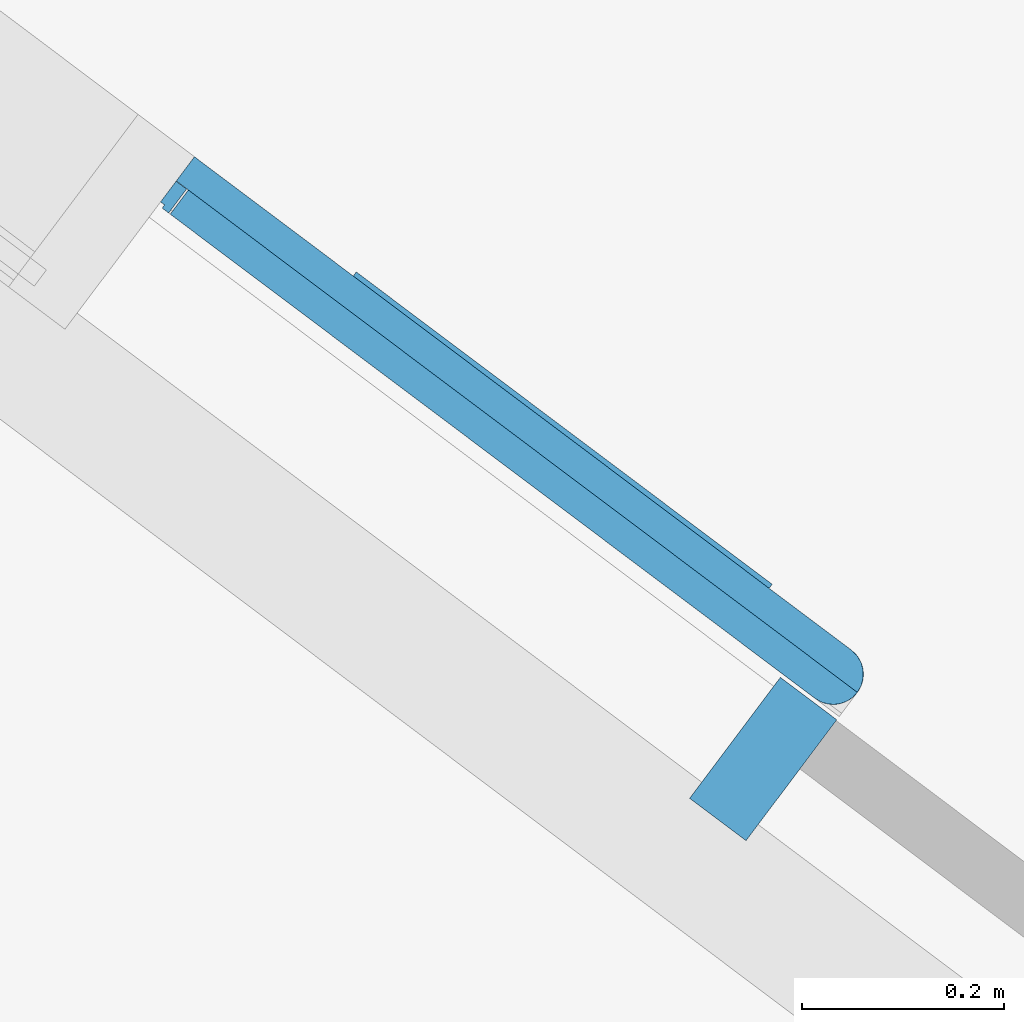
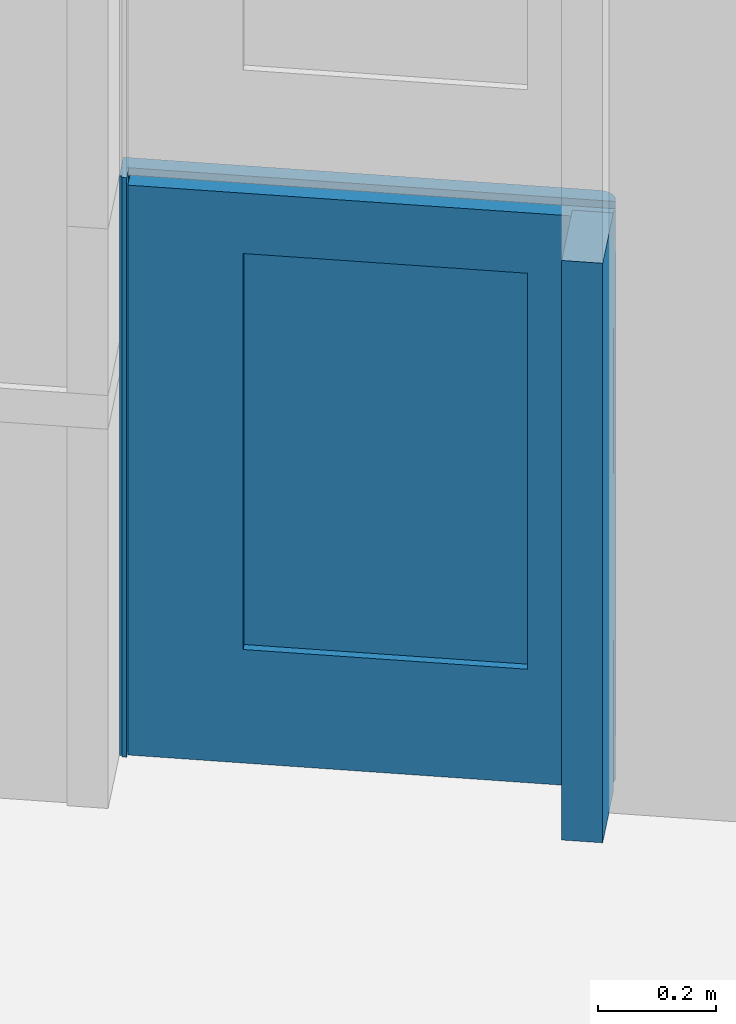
# One storey, part 111 of 243: 1 plate, 1 element without a shape of its own.
"""IFC2X3 building model written with IfcOpenShell, lengths in metres."""

from ifc_helpers import new_model, entity, si_unit, converted_unit, derived_unit, direction, frame, origin, place, context, subcontext, project, spatial, faceted_brep, source, transform, mapped, material, material_list, type_object, type_shapes, element, aggregate, save


model = new_model("IFC2X3")

# Units and contexts
model_context = context("Model", 3, precision=1e-05, world=origin(), true_north=direction((6.123031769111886e-17, 1.0)))
body_context = subcontext(model_context, "Body", "Model", "MODEL_VIEW")
ifc_project = project(units=[si_unit("LENGTHUNIT", "METRE"), si_unit("AREAUNIT", "SQUARE_METRE"), si_unit("VOLUMEUNIT", "CUBIC_METRE"), converted_unit("PLANEANGLEUNIT", "DEGREE", entity("IfcRatioMeasure", 0.017453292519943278), si_unit("PLANEANGLEUNIT", "RADIAN"), dimensions=[0, 0, 0, 0, 0, 0, 0]), si_unit("MASSUNIT", "GRAM", prefix="KILO"), derived_unit("MASSDENSITYUNIT", [(si_unit("MASSUNIT", "GRAM", prefix="KILO"), 1), (si_unit("LENGTHUNIT", "METRE"), -3)]), derived_unit("IONCONCENTRATIONUNIT", [(si_unit("MASSUNIT", "GRAM", prefix="KILO"), 1), (si_unit("LENGTHUNIT", "METRE"), -3)]), derived_unit("MOMENTOFINERTIAUNIT", [(si_unit("LENGTHUNIT", "METRE"), 4)]), si_unit("TIMEUNIT", "SECOND"), si_unit("FREQUENCYUNIT", "HERTZ"), si_unit("THERMODYNAMICTEMPERATUREUNIT", "DEGREE_CELSIUS"), derived_unit("THERMALTRANSMITTANCEUNIT", [(si_unit("MASSUNIT", "GRAM", prefix="KILO"), 1), (si_unit("THERMODYNAMICTEMPERATUREUNIT", "KELVIN"), -1), (si_unit("TIMEUNIT", "SECOND"), -3)]), derived_unit("THERMALCONDUCTANCEUNIT", [(si_unit("MASSUNIT", "GRAM", prefix="KILO"), 1), (si_unit("THERMODYNAMICTEMPERATUREUNIT", "KELVIN"), -1), (si_unit("TIMEUNIT", "SECOND"), -3), (si_unit("LENGTHUNIT", "METRE"), 1)]), derived_unit("VOLUMETRICFLOWRATEUNIT", [(si_unit("LENGTHUNIT", "METRE"), 3), (si_unit("TIMEUNIT", "SECOND"), -1)]), derived_unit("MASSFLOWRATEUNIT", [(si_unit("MASSUNIT", "GRAM", prefix="KILO"), 1), (si_unit("TIMEUNIT", "SECOND"), -1)]), derived_unit("ROTATIONALFREQUENCYUNIT", [(si_unit("TIMEUNIT", "SECOND"), -1)]), si_unit("ELECTRICCURRENTUNIT", "AMPERE"), si_unit("ELECTRICVOLTAGEUNIT", "VOLT"), si_unit("POWERUNIT", "WATT"), si_unit("FORCEUNIT", "NEWTON", prefix="KILO"), si_unit("ILLUMINANCEUNIT", "LUX"), si_unit("LUMINOUSFLUXUNIT", "LUMEN"), si_unit("LUMINOUSINTENSITYUNIT", "CANDELA"), derived_unit("USERDEFINED", [(si_unit("MASSUNIT", "GRAM", prefix="KILO"), -1), (si_unit("LENGTHUNIT", "METRE"), -2), (si_unit("TIMEUNIT", "SECOND"), 3), (si_unit("LUMINOUSFLUXUNIT", "LUMEN"), 1)]), derived_unit("USERDEFINED", [(si_unit("MASSUNIT", "GRAM", prefix="KILO"), 1), (si_unit("TIMEUNIT", "SECOND"), -3), (si_unit("LENGTHUNIT", "METRE"), 3), (si_unit("ELECTRICCURRENTUNIT", "AMPERE"), -2)]), derived_unit("SOUNDPOWERUNIT", [(si_unit("MASSUNIT", "GRAM", prefix="KILO"), 1), (si_unit("TIMEUNIT", "SECOND"), -3), (si_unit("LENGTHUNIT", "METRE"), 2)]), derived_unit("SOUNDPRESSUREUNIT", [(si_unit("MASSUNIT", "GRAM", prefix="KILO"), 1), (si_unit("LENGTHUNIT", "METRE"), -1), (si_unit("TIMEUNIT", "SECOND"), -2)]), derived_unit("LINEARVELOCITYUNIT", [(si_unit("LENGTHUNIT", "METRE"), 1), (si_unit("TIMEUNIT", "SECOND"), -1)]), si_unit("PRESSUREUNIT", "PASCAL"), derived_unit("USERDEFINED", [(si_unit("MASSUNIT", "GRAM", prefix="KILO"), 1), (si_unit("LENGTHUNIT", "METRE"), -2), (si_unit("TIMEUNIT", "SECOND"), -2)]), derived_unit("LINEARFORCEUNIT", [(si_unit("MASSUNIT", "GRAM", prefix="KILO"), 1), (si_unit("TIMEUNIT", "SECOND"), -2)]), derived_unit("PLANARFORCEUNIT", [(si_unit("MASSUNIT", "GRAM", prefix="KILO"), 1), (si_unit("LENGTHUNIT", "METRE"), -1), (si_unit("TIMEUNIT", "SECOND"), -2)]), derived_unit("SPECIFICHEATCAPACITYUNIT", [(si_unit("THERMODYNAMICTEMPERATUREUNIT", "KELVIN"), -1), (si_unit("LENGTHUNIT", "METRE"), 2), (si_unit("TIMEUNIT", "SECOND"), -2)]), derived_unit("HEATINGVALUEUNIT", [(si_unit("LENGTHUNIT", "METRE"), 2), (si_unit("TIMEUNIT", "SECOND"), -2)]), derived_unit("VAPORPERMEABILITYUNIT", [(si_unit("LENGTHUNIT", "METRE"), -1), (si_unit("TIMEUNIT", "SECOND"), 1)]), derived_unit("DYNAMICVISCOSITYUNIT", [(si_unit("MASSUNIT", "GRAM", prefix="KILO"), 1), (si_unit("TIMEUNIT", "SECOND"), -1), (si_unit("LENGTHUNIT", "METRE"), -1)]), derived_unit("THERMALEXPANSIONCOEFFICIENTUNIT", [(si_unit("THERMODYNAMICTEMPERATUREUNIT", "KELVIN"), -1)]), derived_unit("MODULUSOFELASTICITYUNIT", [(si_unit("MASSUNIT", "GRAM", prefix="KILO"), 1), (si_unit("LENGTHUNIT", "METRE"), -1), (si_unit("TIMEUNIT", "SECOND"), -2)]), derived_unit("ISOTHERMALMOISTURECAPACITYUNIT", [(si_unit("LENGTHUNIT", "METRE"), 3), (si_unit("MASSUNIT", "GRAM", prefix="KILO"), -1)]), derived_unit("MOISTUREDIFFUSIVITYUNIT", [(si_unit("TIMEUNIT", "SECOND"), -1), (si_unit("LENGTHUNIT", "METRE"), 2)])], contexts=[model_context])

# Site, building, storey
site_placement = place(None, frame((0.0, 0.0, 235.0), z_axis=(0.0, 0.0, 1.0), x_axis=(-0.7996477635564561, 0.6004693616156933, 0.0)))
site = spatial("IfcSite", under=ifc_project, at=site_placement, Name="Default", CompositionType="ELEMENT")
building_placement = place(site_placement, origin())
building = spatial("IfcBuilding", under=site, at=building_placement, CompositionType="ELEMENT")
storey_placement = place(building_placement, origin())
storey = spatial("IfcBuildingStorey", under=building, at=storey_placement, Name="P0- Escola", CompositionType="ELEMENT", Elevation=0.0)

# Curtain wall, plate
curtain_wall_type = type_object("IfcCurtainWallType", Name="Muro cortina:MC- INT- k1", PredefinedType="NOTDEFINED")
curtain_wall_placement = place(storey_placement, origin())
curtain_wall = element("IfcCurtainWall", 1, at=curtain_wall_placement, inside=storey, type_object=curtain_wall_type, Name="Muro cortina:MC- INT- k1", ObjectType="Muro cortina:MC- INT- k1")
ifc_material_1 = material(Name="_Fusta massisa- T1")
ifc_material_2 = material(Name="_Vidre")
ifc_material_list = material_list([ifc_material_1, ifc_material_2])
plate_type = type_object("IfcPlateType", Name="PanellMurCortina_PortaInteriorVidre-infantil inf:PanellMurCortina_PortaInteriorVidre-infantil inf", PredefinedType="CURTAIN_PANEL", material=ifc_material_list)
shared_shape = source(origin(), body_context, "Body", "Brep", [
    faceted_brep([(0.27550000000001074, 0.16299999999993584, 1.0600000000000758), (0.2755000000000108, 0.19299999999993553, 1.0600000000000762), (0.2755000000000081, 0.19299999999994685, 0.239999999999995), (0.2755000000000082, 0.16299999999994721, 0.23999999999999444), (0.29050000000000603, 0.19299999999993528, 1.0750000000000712), (0.29050000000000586, 0.1629999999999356, 1.0750000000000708), (0.2905000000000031, 0.16299999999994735, 0.22499999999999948), (0.2905000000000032, 0.19299999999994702, 0.22499999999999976), (-0.21049999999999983, 0.19299999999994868, 0.2399999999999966), (-0.21049999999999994, 0.16299999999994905, 0.23999999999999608), (-0.2254999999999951, 0.1629999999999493, 0.2250000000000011), (-0.2254999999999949, 0.19299999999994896, 0.22500000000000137), (-0.21049999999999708, 0.1929999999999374, 1.0600000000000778), (-0.2104999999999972, 0.1629999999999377, 1.0600000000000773), (-0.2254999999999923, 0.16299999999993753, 1.0750000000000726), (-0.22549999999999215, 0.19299999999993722, 1.075000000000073)], [[[0, 1, 2, 3]], [[4, 5, 6, 7]], [[3, 2, 8, 9]], [[7, 6, 10, 11]], [[9, 8, 12, 13]], [[11, 10, 14, 15]], [[13, 12, 1, 0]], [[3, 9, 13, 0], [5, 14, 10, 6]], [[15, 14, 5, 4]], [[1, 12, 8, 2], [7, 11, 15, 4]]], outer=[[True], [True], [True], [True], [True], [True], [True], [False, True], [True], [False, True]]),
    faceted_brep([(0.29050000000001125, 0.16299999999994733, 1.0750000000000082), (-0.22549999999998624, 0.16299999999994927, 1.0750000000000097), (-0.2254999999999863, 0.1429999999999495, 1.0750000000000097), (0.2905000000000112, 0.14299999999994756, 1.0750000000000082), (0.29050000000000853, 0.16299999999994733, 0.2249999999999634), (0.2905000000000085, 0.14299999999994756, 0.2249999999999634), (-0.22549999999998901, 0.1429999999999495, 0.22499999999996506), (-0.22549999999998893, 0.16299999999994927, 0.22499999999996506)], [[[0, 1, 2, 3]], [[4, 5, 6, 7]], [[1, 0, 4, 7]], [[2, 1, 7, 6]], [[3, 2, 6, 5]], [[0, 3, 5, 4]]]),
    faceted_brep([(0.4225000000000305, 0.15799999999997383, 1.184999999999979), (-0.40749999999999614, 0.15799999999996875, 1.184999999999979), (-0.4074999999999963, 0.12799999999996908, 1.184999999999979), (0.39250000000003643, 0.12799999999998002, 1.184999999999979), (0.39918172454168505, 0.1287535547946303, 1.184999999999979), (0.40552006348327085, 0.1309726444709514, 1.184999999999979), (0.41120592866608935, 0.13454604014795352, 1.184999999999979), (0.41595395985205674, 0.13929407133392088, 1.184999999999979), (0.41952735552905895, 0.14497993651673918, 1.184999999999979), (0.4217469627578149, 0.15132054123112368, 1.184999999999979), (0.4137132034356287, 0.1367867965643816, 0.004999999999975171), (0.4075000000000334, 0.1320192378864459, 0.004999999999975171), (0.4002645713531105, 0.12902222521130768, 0.004999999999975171), (0.39250000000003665, 0.12799999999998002, 0.004999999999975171), (-0.4074999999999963, 0.12799999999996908, 0.004999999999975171), (-0.40749999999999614, 0.15799999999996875, 0.004999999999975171), (-0.42249999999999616, 0.15799999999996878, 0.004999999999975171), (-0.42249999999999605, 0.18799999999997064, 0.004999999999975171), (0.39250000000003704, 0.18799999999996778, 0.004999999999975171), (0.40026457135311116, 0.18697777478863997, 0.004999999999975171), (0.40750000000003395, 0.18398076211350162, 0.004999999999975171), (0.41371320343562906, 0.17921320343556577, 0.004999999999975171), (0.4184807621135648, 0.1729999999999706, 0.004999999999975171), (0.4214777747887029, 0.16576457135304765, 0.004999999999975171), (0.42250000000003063, 0.15799999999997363, 0.004999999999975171), (0.4214777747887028, 0.15023542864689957, 0.004999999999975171), (0.4184807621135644, 0.1429999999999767, 0.004999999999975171), (-0.21049999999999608, 0.1429999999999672, 1.0599999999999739), (-0.21049999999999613, 0.1279999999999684, 1.0599999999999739), (-0.21049999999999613, 0.1279999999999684, 0.23999999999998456), (-0.21049999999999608, 0.1429999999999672, 0.23999999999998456), (0.2903124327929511, 0.14299999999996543, 1.0749999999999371), (0.2755000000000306, 0.14299999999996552, 1.0599999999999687), (0.2755000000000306, 0.14299999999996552, 0.23999999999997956), (-0.2254999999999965, 0.14299999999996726, 1.0749999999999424), (0.2903124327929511, 0.14299999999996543, 0.22499999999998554), (-0.2254999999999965, 0.14299999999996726, 0.22499999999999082), (-0.22549999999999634, 0.18799999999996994, 1.0749999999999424), (-0.22549999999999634, 0.18799999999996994, 0.22499999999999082), (0.3925000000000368, 0.18799999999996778, 1.199999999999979), (0.3925000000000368, 0.18799999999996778, 1.184999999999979), (0.2903124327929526, 0.18799999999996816, 1.0749999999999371), (-0.42249999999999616, 0.18799999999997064, 1.199999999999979), (0.29031243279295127, 0.18799999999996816, 0.22499999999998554), (0.39250000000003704, 0.18799999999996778, 0.8025029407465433), (0.392500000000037, 0.18799999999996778, 0.420005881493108), (0.39250000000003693, 0.18799999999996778, 0.19624852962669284), (-0.42249999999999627, 0.15799999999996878, 1.199999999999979), (0.4225000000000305, 0.15799999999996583, 1.199999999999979), (0.2755000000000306, 0.1279999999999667, 0.23999999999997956), (0.3925000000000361, 0.12799999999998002, 0.19624503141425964), (0.3925000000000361, 0.12799999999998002, 0.4200079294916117), (0.3925000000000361, 0.12799999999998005, 0.8025019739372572), (0.2755000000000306, 0.1279999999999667, 1.0599999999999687), (0.41848076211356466, 0.1729999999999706, 1.1999999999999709), (0.41371320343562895, 0.17921320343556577, 1.199999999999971), (0.4075000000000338, 0.1839807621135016, 1.199999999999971), (0.400264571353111, 0.18697777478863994, 1.199999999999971), (0.4214777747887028, 0.16576457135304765, 1.1999999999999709), (0.39803298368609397, 0.1285146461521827, 0.30812720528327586), (0.40398050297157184, 0.13028361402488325, 0.3495967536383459), (0.4202163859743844, 0.1694805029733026, 0.9192462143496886), (0.42021638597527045, 0.1694805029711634, 0.5552842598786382), (0.41630060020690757, 0.17626284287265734, 0.8348288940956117), (0.4202163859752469, 0.1694805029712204, 0.26042447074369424), (0.41630060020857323, 0.1762628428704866, 0.3392951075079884), (0.42208034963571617, 0.16300029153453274, 0.5921116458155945), (0.42231114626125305, 0.15463911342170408, 0.5950000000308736), (0.42224334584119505, 0.16191578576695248, 0.33929510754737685), (0.4024131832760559, 0.12968518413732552, 0.9691144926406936), (0.42224334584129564, 0.15408421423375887, 0.26951946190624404), (0.39875948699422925, 0.18733971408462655, 0.6108189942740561), (0.4048786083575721, 0.1853270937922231, 0.5949999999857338), (0.4039805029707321, 0.1857163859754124, 0.3551711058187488), (0.39791837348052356, 0.12849336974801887, 0.5506590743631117), (0.4107628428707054, 0.13419939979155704, 0.26059581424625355), (0.3981126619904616, 0.18747029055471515, 0.9440836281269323), (0.4002645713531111, 0.1869777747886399, 1.184999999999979), (0.403980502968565, 0.18571638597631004, 0.8348288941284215), (0.4202163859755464, 0.14651949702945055, 0.3660157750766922), (0.40241318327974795, 0.12968518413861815, 0.7190366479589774), (0.4163006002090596, 0.13973715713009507, 0.27567279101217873), (0.4132780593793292, 0.13636040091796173, 0.8385075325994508), (0.4083604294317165, 0.13253538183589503, 0.6408327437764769), (0.41371320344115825, 0.13678679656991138, 0.6017493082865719), (0.408463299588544, 0.13259974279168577, 0.9007300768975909), (0.3980476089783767, 0.18748260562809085, 0.3081272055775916), (0.4176643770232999, 0.1416673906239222, 0.5120494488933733), (0.41732286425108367, 0.14115288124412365, 0.8063880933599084), (0.42234327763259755, 0.15493752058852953, 0.9332073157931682), (0.42224334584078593, 0.16191578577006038, 0.8449281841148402), (0.4208151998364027, 0.14808791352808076, 0.8494345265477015), (0.41076284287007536, 0.18180060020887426, 0.26951946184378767), (0.4107628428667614, 0.18180060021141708, 0.595000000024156), (0.41076284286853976, 0.18180060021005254, 0.9169571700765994), (0.4214777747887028, 0.16576457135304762, 1.184999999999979), (0.413713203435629, 0.1792132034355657, 1.184999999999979), (0.4184807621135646, 0.17299999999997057, 1.184999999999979), (0.41558155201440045, 0.1771635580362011, 0.5870620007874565), (0.40750000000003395, 0.18398076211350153, 1.184999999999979), (0.4203955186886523, 0.1469618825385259, 0.6094956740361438)], [[[0, 1, 2, 3, 4, 5, 6, 7, 8, 9]], [[10, 11, 12, 13, 14, 15, 16, 17, 18, 19, 20, 21, 22, 23, 24, 25, 26]], [[27, 28, 29, 30]], [[31, 32, 27]], [[32, 31, 33]], [[27, 34, 31]], [[35, 33, 31]], [[33, 35, 30]], [[36, 30, 35]], [[30, 36, 34]], [[34, 27, 30]], [[37, 34, 36, 38]], [[39, 40, 41]], [[37, 39, 41]], [[39, 37, 42]], [[40, 43, 41]], [[43, 40, 44]], [[43, 44, 45]], [[43, 45, 46]], [[43, 46, 18]], [[43, 18, 38]], [[17, 38, 18]], [[38, 17, 42]], [[38, 42, 37]], [[47, 42, 17, 16]], [[0, 48, 47, 16, 15, 1]], [[2, 1, 15, 14]], [[2, 28, 3]], [[28, 2, 29]], [[14, 29, 2]], [[29, 14, 13]], [[13, 49, 29]], [[49, 13, 50]], [[49, 50, 51]], [[49, 51, 52]], [[49, 52, 3]], [[3, 53, 49]], [[53, 3, 28]], [[31, 41, 43, 35]], [[53, 32, 33, 49]], [[32, 53, 28, 27]], [[41, 31, 34, 37]], [[54, 55, 56, 57, 39, 42, 47, 48, 58]], [[35, 43, 38, 36]], [[49, 33, 30, 29]], [[59, 12, 60]], [[61, 62, 63]], [[64, 65, 62]], [[66, 67, 68]], [[4, 69, 5]], [[68, 70, 24]], [[71, 72, 73]], [[59, 74, 51]], [[10, 75, 11]], [[76, 77, 78]], [[26, 25, 79]], [[12, 11, 60]], [[52, 80, 69]], [[81, 26, 79]], [[82, 83, 84]], [[23, 64, 68]], [[69, 85, 5]], [[73, 86, 71]], [[6, 85, 82]], [[87, 88, 84]], [[19, 18, 46]], [[39, 57, 77, 40]], [[89, 67, 90]], [[8, 91, 9]], [[24, 70, 25]], [[4, 3, 52]], [[64, 23, 22]], [[44, 76, 71]], [[86, 46, 45]], [[24, 23, 68]], [[65, 92, 93]], [[93, 94, 63]], [[40, 77, 76]], [[21, 92, 65]], [[61, 95, 90]], [[96, 97, 63]], [[26, 81, 10]], [[98, 62, 65]], [[78, 77, 99]], [[89, 90, 0]], [[0, 90, 95]], [[5, 85, 6]], [[12, 59, 50]], [[94, 93, 78]], [[93, 92, 73]], [[87, 84, 81]], [[97, 95, 61]], [[63, 94, 96]], [[88, 8, 7]], [[100, 67, 91]], [[65, 22, 21]], [[94, 99, 96]], [[9, 91, 89]], [[10, 81, 75]], [[20, 19, 73]], [[83, 85, 80]], [[74, 52, 51]], [[82, 84, 88]], [[66, 68, 62]], [[70, 67, 79]], [[21, 20, 92]], [[63, 98, 93]], [[87, 81, 79]], [[84, 83, 75]], [[78, 99, 94]], [[61, 90, 66]], [[63, 97, 61]], [[67, 70, 68]], [[79, 25, 70]], [[20, 73, 92]], [[65, 64, 22]], [[68, 64, 62]], [[84, 75, 81]], [[60, 11, 75]], [[52, 69, 4]], [[85, 69, 80]], [[50, 59, 51]], [[50, 13, 12]], [[74, 60, 80]], [[60, 74, 59]], [[52, 74, 80]], [[71, 86, 45]], [[46, 86, 19]], [[19, 86, 73]], [[44, 71, 45]], [[71, 78, 72]], [[80, 60, 83]], [[75, 83, 60]], [[79, 100, 87]], [[87, 100, 88]], [[8, 88, 91]], [[7, 6, 82]], [[67, 100, 79]], [[88, 100, 91]], [[7, 82, 88]], [[83, 82, 85]], [[78, 93, 72]], [[93, 73, 72]], [[71, 76, 78]], [[40, 76, 44]], [[9, 89, 0]], [[67, 89, 91]], [[61, 66, 62]], [[67, 66, 90]], [[62, 98, 63]], [[65, 93, 98]], [[58, 48, 0, 95]], [[54, 58, 95, 97]], [[55, 54, 97, 96]], [[56, 55, 96, 99]], [[57, 56, 99, 77]]]),
    faceted_brep([(-0.42249999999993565, 0.15772492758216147, 0.0), (-0.409500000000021, 0.15772492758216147, 0.0), (-0.409500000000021, 0.12799999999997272, 0.0), (-0.41749999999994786, 0.12799999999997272, 0.0), (-0.41749999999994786, 0.13199999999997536, 0.0), (-0.42249999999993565, 0.13199999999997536, 0.0), (-0.42249999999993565, 0.15772492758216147, 1.1999999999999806), (-0.409500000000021, 0.15772492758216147, 1.1999999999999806), (-0.409500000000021, 0.12799999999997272, 1.1999999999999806), (-0.41749999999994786, 0.12799999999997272, 1.1999999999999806), (-0.41749999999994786, 0.13199999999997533, 1.1999999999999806), (-0.42249999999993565, 0.13199999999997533, 1.1999999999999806)], [[[0, 1, 2, 3, 4, 5]], [[6, 7, 1, 0]], [[7, 8, 2, 1]], [[8, 9, 3, 2]], [[9, 10, 4, 3]], [[10, 11, 5, 4]], [[11, 6, 0, 5]], [[6, 11, 10, 9, 8, 7]]]),
    faceted_brep([(0.4225000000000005, -0.026000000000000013, 1.2000000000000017), (0.4225000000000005, 0.12400000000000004, 1.2000000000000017), (0.3525000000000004, 0.12400000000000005, 1.2000000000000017), (0.3525000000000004, -0.026000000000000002, 1.2000000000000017), (0.4225000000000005, -0.026000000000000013, 0.0), (0.3525000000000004, -0.026000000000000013, 0.0), (0.3525000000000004, 0.12400000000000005, 0.0), (0.4225000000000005, 0.12400000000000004, 0.0)], [[[0, 1, 2, 3]], [[4, 5, 6, 7]], [[3, 5, 4, 0]], [[2, 6, 5, 3]], [[1, 7, 6, 2]], [[0, 4, 7, 1]]]),
])
type_shapes(plate_type, [shared_shape])
plate_placement = place(curtain_wall_placement, frame((7.3466476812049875, -27.827191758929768, 0.0), z_axis=(0.0, 0.0, 1.0), x_axis=(-1.0, 0.0, 0.0)))
plate = element("IfcPlate", 2, at=plate_placement, type_object=plate_type, material=ifc_material_list, Name="PanellMurCortina_PortaInteriorVidre-infantil inf:PanellMurCortina_PortaInteriorVidre-infantil inf", ObjectType="PanellMurCortina_PortaInteriorVidre-infantil inf:PanellMurCortina_PortaInteriorVidre-infantil inf", context=body_context, shape_type="MappedRepresentation", body=[
    mapped(shared_shape, transform((0.0, 0.0, 0.0), scale=1.0)),
])
aggregate(curtain_wall, [plate])

save(model, "model.ifc")
